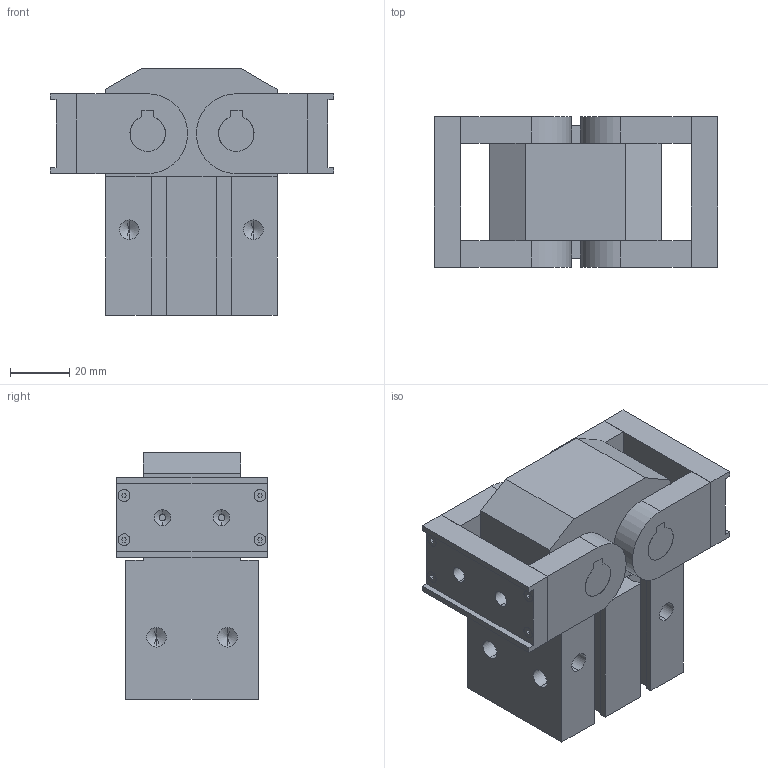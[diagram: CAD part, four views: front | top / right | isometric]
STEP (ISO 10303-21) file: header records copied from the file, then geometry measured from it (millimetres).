
FILE_DESCRIPTION (( 'STEP AP203' ), '1' );
FILE_NAME ('GHK 32 open.STEP', '2013-03-04T09:51:06', ( 'Conseil Régional Haute-Normandie' ), ( 'Conseil Régional Haute-Normandie' ), 'SwSTEP 2.0', 'SolidWorks 2010', '' );
FILE_SCHEMA (( 'CONFIG_CONTROL_DESIGN' ));
Length unit declared in the file: millimetre
Products named in the file (5): Pièce1 ghk_Default; Pièce4 GHK32_Default; GHK 32 open; Pièce5 GHK32_Default; Pièce3  ghk_Default
Assembly tree (9 placements, depth 2):
  GHK 32 open
    Pièce5 GHK32_Default  x4
    Pièce4 GHK32_Default  x2
    Pièce3  ghk_Default  x2
    Pièce1 ghk_Default
Bounding box: 96 x 51 x 83.5 mm (x, y, z)
Volume: 228118.7 mm3; surface area: 51204.2 mm2
Topology: 9 solids, 9 shells, 277 faces, 686 edges, 438 vertices
Faces by surface type: plane 181, cylinder 68, cone 28
Entity records: 5750 total; most frequent: DIRECTION 887, CARTESIAN_POINT 883, ORIENTED_EDGE 842, EDGE_CURVE 421, LINE 327, VECTOR 327, AXIS2_PLACEMENT_3D 280, VERTEX_POINT 276
